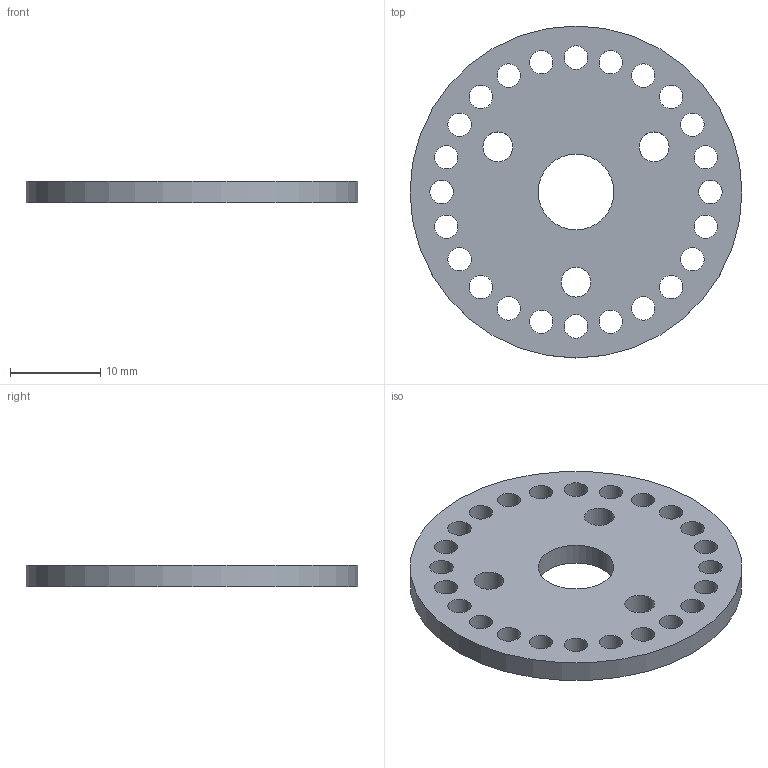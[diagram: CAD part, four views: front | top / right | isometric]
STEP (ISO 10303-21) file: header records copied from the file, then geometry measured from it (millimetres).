
FILE_DESCRIPTION(('Open CASCADE Model'),'2;1');
FILE_NAME('DH_flange_-1','2026-11-05T16:12:34',('Author'),( 'Open CASCADE'),'Open CASCADE STEP processor 7.9','build123d', 'Unknown');
FILE_SCHEMA(('AUTOMOTIVE_DESIGN { 1 0 10303 214 1 1 1 1 }'));
Length unit declared in the file: millimetre
Products named in the file (2): DH_flange_-1
Assembly tree (1 placements, depth 2):
  DH_flange_-1
    DH_flange_-1
Bounding box: 36.8 x 36.8 x 2.4 mm (x, y, z)
Volume: 2052.3 mm3; surface area: 2596.2 mm2
Topology: 1 solids, 1 shells, 31 faces, 87 edges, 58 vertices
Faces by surface type: cylinder 29, plane 2
Full cylindrical faces by diameter (mm): 2.6 x24, 3.3 x3, 8.4 x1, 36.8 x1
Entity records: 2334 total; most frequent: DIRECTION 385, CARTESIAN_POINT 352, ORIENTED_EDGE 174, PCURVE 174, DEFINITIONAL_REPRESENTATION 174, LINE 145, VECTOR 145, CIRCLE 116
